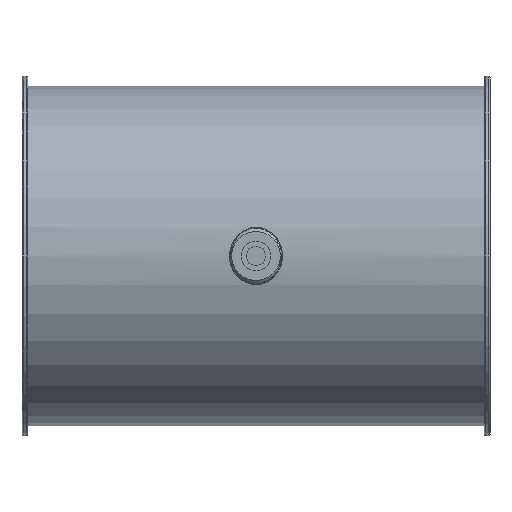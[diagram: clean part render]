
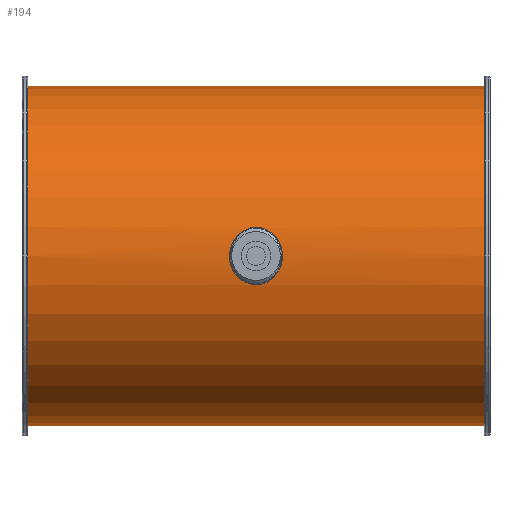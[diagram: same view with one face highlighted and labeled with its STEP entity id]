
A CAD part, front view. The second image highlights one B-rep face of the part: STEP entity #194.
In plain terms, the highlighted cylindrical face has radius 90.8 mm (diameter 181.6 mm), a full revolution.
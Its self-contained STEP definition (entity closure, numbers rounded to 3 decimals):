
#113=B_SPLINE_CURVE_WITH_KNOTS('',3,(#1604,#1605,#1606,#1607,#1608,#1609,
#1610,#1611,#1612,#1613,#1614,#1615,#1616,#1617,#1618,#1619,#1620,#1621,
#1622,#1623,#1624,#1625),.UNSPECIFIED.,.T.,.F.,(2,2,2,2,2,2,2,2,2,2,2,2,
2),(-0.063,0.,0.125,0.25,0.375,0.437,
0.5,0.625,0.75,0.875,
0.938,1.,1.125),.UNSPECIFIED.);
#114=B_SPLINE_CURVE_WITH_KNOTS('',3,(#1627,#1628,#1629,#1630,#1631,#1632,
#1633,#1634,#1635,#1636,#1637,#1638,#1639,#1640,#1641,#1642,#1643,#1644,
#1645,#1646,#1647,#1648),.UNSPECIFIED.,.T.,.F.,(2,2,2,2,2,2,2,2,2,2,2,2,
2),(-0.125,0.,0.062,0.125,0.25,0.375,
0.5,0.562,0.625,0.75,
0.875,1.,1.063),.UNSPECIFIED.);
#144=CYLINDRICAL_SURFACE('',#1113,90.8);
#194=ADVANCED_FACE('',(#347,#348,#349,#350),#144,.T.);
#347=FACE_BOUND('',#489,.T.);
#348=FACE_BOUND('',#490,.T.);
#349=FACE_BOUND('',#491,.T.);
#350=FACE_BOUND('',#492,.T.);
#489=EDGE_LOOP('',(#675));
#490=EDGE_LOOP('',(#676));
#491=EDGE_LOOP('',(#677));
#492=EDGE_LOOP('',(#678));
#675=ORIENTED_EDGE('',*,*,#939,.T.);
#676=ORIENTED_EDGE('',*,*,#940,.T.);
#677=ORIENTED_EDGE('',*,*,#941,.T.);
#678=ORIENTED_EDGE('',*,*,#942,.F.);
#841=VERTEX_POINT('',#1603);
#842=VERTEX_POINT('',#1626);
#843=VERTEX_POINT('',#1649);
#844=VERTEX_POINT('',#1651);
#939=EDGE_CURVE('',#841,#841,#1025,.T.);
#940=EDGE_CURVE('',#842,#842,#113,.T.);
#941=EDGE_CURVE('',#843,#843,#114,.T.);
#942=EDGE_CURVE('',#844,#844,#1026,.T.);
#1025=CIRCLE('',#1111,90.8);
#1026=CIRCLE('',#1112,90.8);
#1111=AXIS2_PLACEMENT_3D('',#1602,#1300,#1301);
#1112=AXIS2_PLACEMENT_3D('',#1650,#1302,#1303);
#1113=AXIS2_PLACEMENT_3D('',#1652,#1304,#1305);
#1300=DIRECTION('',(1.,0.,0.));
#1301=DIRECTION('',(0.,0.,1.));
#1302=DIRECTION('',(1.,0.,0.));
#1303=DIRECTION('',(0.,0.,1.));
#1304=DIRECTION('',(1.,0.,0.));
#1305=DIRECTION('',(0.,0.,-1.));
#1602=CARTESIAN_POINT('',(-122.,-48.3,125.));
#1603=CARTESIAN_POINT('',(-122.,-48.3,215.8));
#1604=CARTESIAN_POINT('',(-2.298,-137.806,109.715));
#1605=CARTESIAN_POINT('',(-7.848,-138.111,111.573));
#1606=CARTESIAN_POINT('',(-10.853,-138.549,114.427));
#1607=CARTESIAN_POINT('',(-14.215,-139.092,121.339));
#1608=CARTESIAN_POINT('',(-14.602,-139.175,125.457));
#1609=CARTESIAN_POINT('',(-12.646,-138.833,132.889));
#1610=CARTESIAN_POINT('',(-10.282,-138.42,136.281));
#1611=CARTESIAN_POINT('',(-5.389,-137.969,139.326));
#1612=CARTESIAN_POINT('',(-3.54,-137.852,140.003));
#1613=CARTESIAN_POINT('',(0.316,-137.77,140.486));
#1614=CARTESIAN_POINT('',(2.284,-137.806,140.286));
#1615=CARTESIAN_POINT('',(7.813,-138.108,138.445));
#1616=CARTESIAN_POINT('',(10.832,-138.546,135.61));
#1617=CARTESIAN_POINT('',(14.228,-139.094,128.638));
#1618=CARTESIAN_POINT('',(14.605,-139.176,124.548));
#1619=CARTESIAN_POINT('',(12.639,-138.832,117.092));
#1620=CARTESIAN_POINT('',(10.262,-138.417,113.7));
#1621=CARTESIAN_POINT('',(5.375,-137.968,110.669));
#1622=CARTESIAN_POINT('',(3.504,-137.851,109.99));
#1623=CARTESIAN_POINT('',(-0.316,-137.77,109.517));
#1624=CARTESIAN_POINT('',(-2.298,-137.806,109.715));
#1625=CARTESIAN_POINT('',(-7.848,-138.111,111.573));
#1626=CARTESIAN_POINT('',(-4.148,-137.908,110.334));
#1627=CARTESIAN_POINT('',(-7.848,41.511,111.573));
#1628=CARTESIAN_POINT('',(-2.298,41.206,109.715));
#1629=CARTESIAN_POINT('',(-0.332,41.17,109.516));
#1630=CARTESIAN_POINT('',(3.497,41.251,109.988));
#1631=CARTESIAN_POINT('',(5.363,41.367,110.662));
#1632=CARTESIAN_POINT('',(10.275,41.818,113.707));
#1633=CARTESIAN_POINT('',(12.645,42.233,117.093));
#1634=CARTESIAN_POINT('',(14.61,42.577,124.589));
#1635=CARTESIAN_POINT('',(14.213,42.492,128.674));
#1636=CARTESIAN_POINT('',(10.84,41.947,135.59));
#1637=CARTESIAN_POINT('',(7.832,41.51,138.429));
#1638=CARTESIAN_POINT('',(2.322,41.207,140.279));
#1639=CARTESIAN_POINT('',(0.37,41.17,140.486));
#1640=CARTESIAN_POINT('',(-3.508,41.251,140.013));
#1641=CARTESIAN_POINT('',(-5.361,41.367,139.339));
#1642=CARTESIAN_POINT('',(-10.273,41.818,136.295));
#1643=CARTESIAN_POINT('',(-12.642,42.232,132.907));
#1644=CARTESIAN_POINT('',(-14.607,42.576,125.435));
#1645=CARTESIAN_POINT('',(-14.226,42.494,121.358));
#1646=CARTESIAN_POINT('',(-10.835,41.946,114.395));
#1647=CARTESIAN_POINT('',(-7.848,41.511,111.573));
#1648=CARTESIAN_POINT('',(-2.298,41.206,109.715));
#1649=CARTESIAN_POINT('',(-4.148,41.308,110.334));
#1650=CARTESIAN_POINT('',(122.,-48.3,125.));
#1651=CARTESIAN_POINT('',(122.,-48.3,215.8));
#1652=CARTESIAN_POINT('',(-125.,-48.3,125.));
